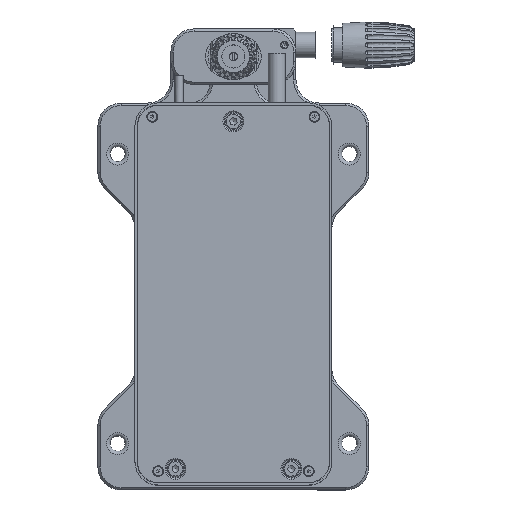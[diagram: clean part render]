
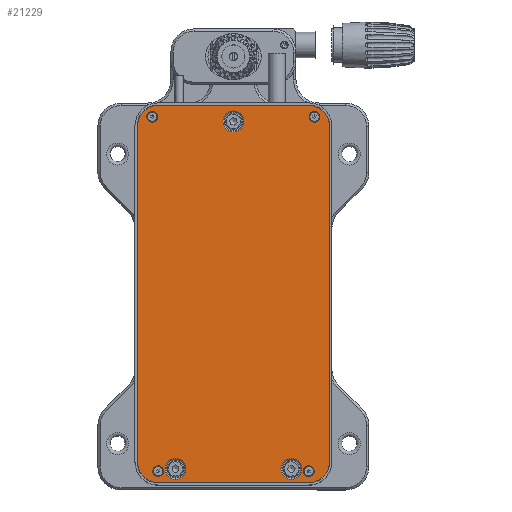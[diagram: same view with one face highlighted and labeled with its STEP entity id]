
A CAD part, top view. The second image highlights one B-rep face of the part: STEP entity #21229.
In plain terms, the highlighted planar face has unit normal (0, 0, 1).
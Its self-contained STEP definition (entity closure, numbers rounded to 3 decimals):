
#870=FACE_BOUND('',#3748,.T.);
#871=FACE_BOUND('',#3749,.T.);
#872=FACE_BOUND('',#3750,.T.);
#873=FACE_BOUND('',#3751,.T.);
#874=FACE_BOUND('',#3752,.T.);
#875=FACE_BOUND('',#3753,.T.);
#876=FACE_BOUND('',#3754,.T.);
#1303=PLANE('',#23593);
#2391=FACE_OUTER_BOUND('',#3747,.T.);
#3747=EDGE_LOOP('',(#17935,#17936,#17937,#17938,#17939,#17940,#17941,#17942));
#3748=EDGE_LOOP('',(#17943));
#3749=EDGE_LOOP('',(#17944,#17945));
#3750=EDGE_LOOP('',(#17946,#17947));
#3751=EDGE_LOOP('',(#17948,#17949));
#3752=EDGE_LOOP('',(#17950,#17951));
#3753=EDGE_LOOP('',(#17952));
#3754=EDGE_LOOP('',(#17953));
#5181=CIRCLE('',#23555,9.);
#5182=CIRCLE('',#23558,9.);
#5183=CIRCLE('',#23561,9.);
#5184=CIRCLE('',#23564,9.);
#5187=CIRCLE('',#23569,2.35);
#5188=CIRCLE('',#23570,2.35);
#5191=CIRCLE('',#23575,2.35);
#5192=CIRCLE('',#23576,2.35);
#5195=CIRCLE('',#23581,2.35);
#5196=CIRCLE('',#23582,2.35);
#5199=CIRCLE('',#23587,2.35);
#5200=CIRCLE('',#23588,2.35);
#5201=CIRCLE('',#23590,4.5);
#5202=CIRCLE('',#23592,4.5);
#5203=CIRCLE('',#23594,4.5);
#6401=LINE('',#54214,#7699);
#6405=LINE('',#54223,#7703);
#6408=LINE('',#54231,#7706);
#6411=LINE('',#54239,#7709);
#7699=VECTOR('',#29201,10.);
#7703=VECTOR('',#29211,10.);
#7706=VECTOR('',#29220,10.);
#7709=VECTOR('',#29229,10.);
#9677=VERTEX_POINT('',#54211);
#9678=VERTEX_POINT('',#54213);
#9679=VERTEX_POINT('',#54217);
#9680=VERTEX_POINT('',#54221);
#9681=VERTEX_POINT('',#54225);
#9682=VERTEX_POINT('',#54229);
#9683=VERTEX_POINT('',#54233);
#9684=VERTEX_POINT('',#54237);
#9687=VERTEX_POINT('',#54249);
#9688=VERTEX_POINT('',#54250);
#9691=VERTEX_POINT('',#54261);
#9692=VERTEX_POINT('',#54262);
#9695=VERTEX_POINT('',#54273);
#9696=VERTEX_POINT('',#54274);
#9699=VERTEX_POINT('',#54285);
#9700=VERTEX_POINT('',#54286);
#9701=VERTEX_POINT('',#54291);
#9702=VERTEX_POINT('',#54295);
#9703=VERTEX_POINT('',#54299);
#12502=EDGE_CURVE('',#9678,#9677,#6401,.T.);
#12505=EDGE_CURVE('',#9677,#9679,#5181,.T.);
#12507=EDGE_CURVE('',#9679,#9680,#6405,.T.);
#12509=EDGE_CURVE('',#9680,#9681,#5182,.T.);
#12511=EDGE_CURVE('',#9681,#9682,#6408,.T.);
#12513=EDGE_CURVE('',#9682,#9683,#5183,.T.);
#12515=EDGE_CURVE('',#9683,#9684,#6411,.T.);
#12516=EDGE_CURVE('',#9684,#9678,#5184,.T.);
#12520=EDGE_CURVE('',#9687,#9688,#5187,.T.);
#12521=EDGE_CURVE('',#9688,#9687,#5188,.T.);
#12526=EDGE_CURVE('',#9691,#9692,#5191,.T.);
#12527=EDGE_CURVE('',#9692,#9691,#5192,.T.);
#12532=EDGE_CURVE('',#9695,#9696,#5195,.T.);
#12533=EDGE_CURVE('',#9696,#9695,#5196,.T.);
#12538=EDGE_CURVE('',#9699,#9700,#5199,.T.);
#12539=EDGE_CURVE('',#9700,#9699,#5200,.T.);
#12541=EDGE_CURVE('',#9701,#9701,#5201,.T.);
#12543=EDGE_CURVE('',#9702,#9702,#5202,.T.);
#12545=EDGE_CURVE('',#9703,#9703,#5203,.T.);
#17935=ORIENTED_EDGE('',*,*,#12502,.T.);
#17936=ORIENTED_EDGE('',*,*,#12505,.T.);
#17937=ORIENTED_EDGE('',*,*,#12507,.T.);
#17938=ORIENTED_EDGE('',*,*,#12509,.T.);
#17939=ORIENTED_EDGE('',*,*,#12511,.T.);
#17940=ORIENTED_EDGE('',*,*,#12513,.T.);
#17941=ORIENTED_EDGE('',*,*,#12515,.T.);
#17942=ORIENTED_EDGE('',*,*,#12516,.T.);
#17943=ORIENTED_EDGE('',*,*,#12543,.F.);
#17944=ORIENTED_EDGE('',*,*,#12520,.T.);
#17945=ORIENTED_EDGE('',*,*,#12521,.T.);
#17946=ORIENTED_EDGE('',*,*,#12526,.T.);
#17947=ORIENTED_EDGE('',*,*,#12527,.T.);
#17948=ORIENTED_EDGE('',*,*,#12532,.T.);
#17949=ORIENTED_EDGE('',*,*,#12533,.T.);
#17950=ORIENTED_EDGE('',*,*,#12538,.T.);
#17951=ORIENTED_EDGE('',*,*,#12539,.T.);
#17952=ORIENTED_EDGE('',*,*,#12541,.F.);
#17953=ORIENTED_EDGE('',*,*,#12545,.F.);
#21229=ADVANCED_FACE('',(#2391,#870,#871,#872,#873,#874,#875,#876),#1303,
 .T.);
#23555=AXIS2_PLACEMENT_3D('',#54219,#29206,#29207);
#23558=AXIS2_PLACEMENT_3D('',#54227,#29215,#29216);
#23561=AXIS2_PLACEMENT_3D('',#54235,#29224,#29225);
#23564=AXIS2_PLACEMENT_3D('',#54241,#29232,#29233);
#23569=AXIS2_PLACEMENT_3D('',#54251,#29243,#29244);
#23570=AXIS2_PLACEMENT_3D('',#54252,#29245,#29246);
#23575=AXIS2_PLACEMENT_3D('',#54263,#29257,#29258);
#23576=AXIS2_PLACEMENT_3D('',#54264,#29259,#29260);
#23581=AXIS2_PLACEMENT_3D('',#54275,#29271,#29272);
#23582=AXIS2_PLACEMENT_3D('',#54276,#29273,#29274);
#23587=AXIS2_PLACEMENT_3D('',#54287,#29285,#29286);
#23588=AXIS2_PLACEMENT_3D('',#54288,#29287,#29288);
#23590=AXIS2_PLACEMENT_3D('',#54292,#29292,#29293);
#23592=AXIS2_PLACEMENT_3D('',#54296,#29297,#29298);
#23593=AXIS2_PLACEMENT_3D('',#54298,#29300,#29301);
#23594=AXIS2_PLACEMENT_3D('',#54300,#29302,#29303);
#29201=DIRECTION('',(-1.,0.,0.));
#29206=DIRECTION('center_axis',(0.,0.,
1.));
#29207=DIRECTION('ref_axis',(0.,-1.,0.));
#29211=DIRECTION('',(0.,-1.,0.));
#29215=DIRECTION('center_axis',(0.,0.,
1.));
#29216=DIRECTION('ref_axis',(1.,0.,0.));
#29220=DIRECTION('',(1.,0.,0.));
#29224=DIRECTION('center_axis',(0.,0.,
1.));
#29225=DIRECTION('ref_axis',(0.,1.,0.));
#29229=DIRECTION('',(0.,1.,0.));
#29232=DIRECTION('center_axis',(0.,0.,
1.));
#29233=DIRECTION('ref_axis',(-1.,0.,0.));
#29243=DIRECTION('center_axis',(0.,0.,
-1.));
#29244=DIRECTION('ref_axis',(1.,0.,0.));
#29245=DIRECTION('center_axis',(0.,0.,
-1.));
#29246=DIRECTION('ref_axis',(1.,0.,0.));
#29257=DIRECTION('center_axis',(0.,0.,
-1.));
#29258=DIRECTION('ref_axis',(1.,0.,0.));
#29259=DIRECTION('center_axis',(0.,0.,
-1.));
#29260=DIRECTION('ref_axis',(1.,0.,0.));
#29271=DIRECTION('center_axis',(0.,0.,
-1.));
#29272=DIRECTION('ref_axis',(1.,0.,0.));
#29273=DIRECTION('center_axis',(0.,0.,
-1.));
#29274=DIRECTION('ref_axis',(1.,0.,0.));
#29285=DIRECTION('center_axis',(0.,0.,
-1.));
#29286=DIRECTION('ref_axis',(1.,0.,0.));
#29287=DIRECTION('center_axis',(0.,0.,
-1.));
#29288=DIRECTION('ref_axis',(1.,0.,0.));
#29292=DIRECTION('center_axis',(0.,0.,
1.));
#29293=DIRECTION('ref_axis',(-1.,0.,0.));
#29297=DIRECTION('center_axis',(0.,0.,
1.));
#29298=DIRECTION('ref_axis',(-1.,0.,0.));
#29300=DIRECTION('center_axis',(0.,0.,
1.));
#29301=DIRECTION('ref_axis',(1.,0.,0.));
#29302=DIRECTION('center_axis',(0.,0.,
1.));
#29303=DIRECTION('ref_axis',(-1.,0.,0.));
#54211=CARTESIAN_POINT('',(-46.532,123.118,38.328));
#54213=CARTESIAN_POINT('',(18.368,123.118,38.328));
#54214=CARTESIAN_POINT('',(-46.532,123.118,38.328));
#54217=CARTESIAN_POINT('',(-55.532,114.118,38.328));
#54219=CARTESIAN_POINT('Origin',(-46.532,114.118,38.328));
#54221=CARTESIAN_POINT('',(-55.532,-30.782,38.328));
#54223=CARTESIAN_POINT('',(-55.532,-30.782,38.328));
#54225=CARTESIAN_POINT('',(-46.532,-39.782,38.328));
#54227=CARTESIAN_POINT('Origin',(-46.532,-30.782,38.328));
#54229=CARTESIAN_POINT('',(18.368,-39.782,38.328));
#54231=CARTESIAN_POINT('',(18.368,-39.782,38.328));
#54233=CARTESIAN_POINT('',(27.368,-30.782,38.328));
#54235=CARTESIAN_POINT('Origin',(18.368,-30.782,38.328));
#54237=CARTESIAN_POINT('',(27.368,114.118,38.328));
#54239=CARTESIAN_POINT('',(27.368,114.118,38.328));
#54241=CARTESIAN_POINT('Origin',(18.368,114.118,38.328));
#54249=CARTESIAN_POINT('',(-44.232,-34.832,38.328));
#54250=CARTESIAN_POINT('',(-48.932,-34.832,38.328));
#54251=CARTESIAN_POINT('Origin',(-46.582,-34.832,38.328));
#54252=CARTESIAN_POINT('Origin',(-46.582,-34.832,38.328));
#54261=CARTESIAN_POINT('',(-46.732,118.168,38.328));
#54262=CARTESIAN_POINT('',(-51.432,118.168,38.328));
#54263=CARTESIAN_POINT('Origin',(-49.082,118.168,38.328));
#54264=CARTESIAN_POINT('Origin',(-49.082,118.168,38.328));
#54273=CARTESIAN_POINT('',(23.268,118.168,38.328));
#54274=CARTESIAN_POINT('',(18.568,118.168,38.328));
#54275=CARTESIAN_POINT('Origin',(20.918,118.168,38.328));
#54276=CARTESIAN_POINT('Origin',(20.918,118.168,38.328));
#54285=CARTESIAN_POINT('',(20.768,-34.832,38.328));
#54286=CARTESIAN_POINT('',(16.068,-34.832,38.328));
#54287=CARTESIAN_POINT('Origin',(18.418,-34.832,38.328));
#54288=CARTESIAN_POINT('Origin',(18.418,-34.832,38.328));
#54291=CARTESIAN_POINT('',(-9.582,116.168,38.328));
#54292=CARTESIAN_POINT('Origin',(-14.082,116.168,38.328));
#54295=CARTESIAN_POINT('',(15.418,-33.832,38.328));
#54296=CARTESIAN_POINT('Origin',(10.918,-33.832,38.328));
#54298=CARTESIAN_POINT('Origin',(-14.082,41.668,38.328));
#54299=CARTESIAN_POINT('',(-34.582,-33.832,38.328));
#54300=CARTESIAN_POINT('Origin',(-39.082,-33.832,38.328));
